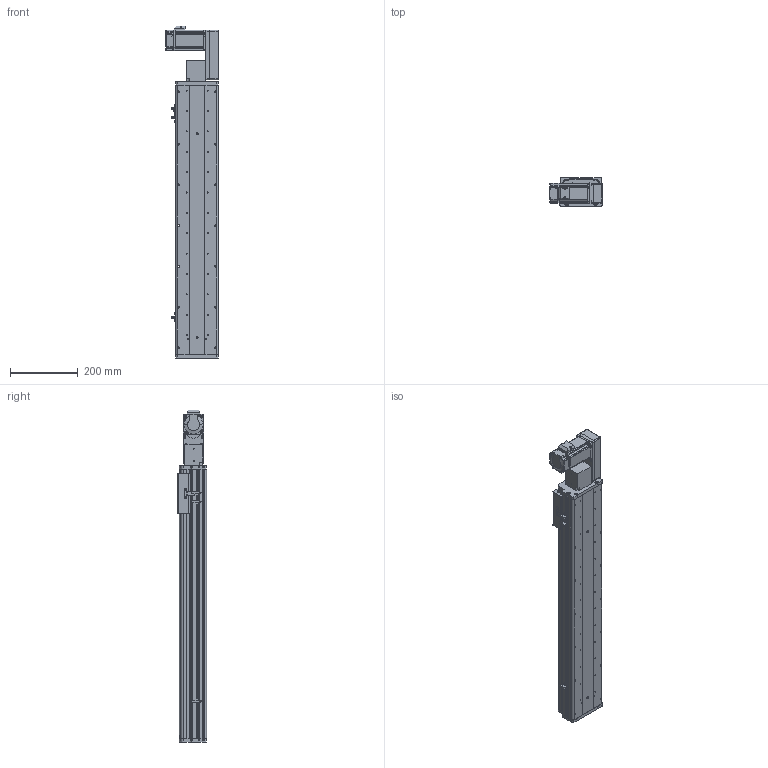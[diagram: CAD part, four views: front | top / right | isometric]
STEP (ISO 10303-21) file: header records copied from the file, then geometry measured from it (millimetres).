
FILE_DESCRIPTION (( 'STEP AP214' ), '1' );
FILE_NAME ('KSD125B-S600-MLB-CM.STEP', '2017-10-21T01:40:23', ( '微软用户' ), ( '微软中国' ), 'SwSTEP 2.0', 'SolidWorks 2014', '' );
FILE_SCHEMA (( 'AUTOMOTIVE_DESIGN' ));
Length unit declared in the file: millimetre
Products named in the file (17): U倰嫖萇EEㄜSX672; KSD125模组同步带-防撞垫1; 前端板-125宽模组同步带; 125模组同步带-尾端板1; KSD125模组同步带-滑动座1; KSD125B-S600-MLB-CM; 悵誘欶奻狟殏; HTPA30S3M150_A_H6_a佪裝蚚; HTPA30S3M150_A_H6_a萇儂蚚; 100宽马达安装板连板上下折丝杆同步带; 100宽马达安装板同步带左; KSD125模组600行程同步带-防尘盖; 125模组600行程同步带-底板; MHMD042G1CA_2_03; KSD125模组同步带-防撞垫2; 覜茼え68遵圉猾敕; U倰嫖萇假蚾璃
Assembly tree (20 placements, depth 2):
  KSD125B-S600-MLB-CM
    KSD125模组同步带-滑动座1
    125模组同步带-尾端板1
    前端板-125宽模组同步带
    KSD125模组同步带-防撞垫1
    U倰嫖萇EEㄜSX672  x3
    U倰嫖萇假蚾璃  x3
    覜茼え68遵圉猾敕
    KSD125模组同步带-防撞垫2
    MHMD042G1CA_2_03
    125模组600行程同步带-底板
    KSD125模组600行程同步带-防尘盖
    100宽马达安装板同步带左
    100宽马达安装板连板上下折丝杆同步带
    HTPA30S3M150_A_H6_a萇儂蚚
    HTPA30S3M150_A_H6_a佪裝蚚
    悵誘欶奻狟殏
Bounding box: 155 x 86 x 978 mm (x, y, z)
Volume: 2858026.2 mm3; surface area: 984064.2 mm2
Topology: 19 solids, 22 shells, 2257 faces, 6535 edges, 4318 vertices
Faces by surface type: cylinder 1408, plane 722, cone 105, bspline 22
Entity records: 80093 total; most frequent: CARTESIAN_POINT 15825, DIRECTION 12456, ORIENTED_EDGE 11590, EDGE_CURVE 5873, AXIS2_PLACEMENT_3D 4809, VERTEX_POINT 3910, LINE 2838, VECTOR 2838
